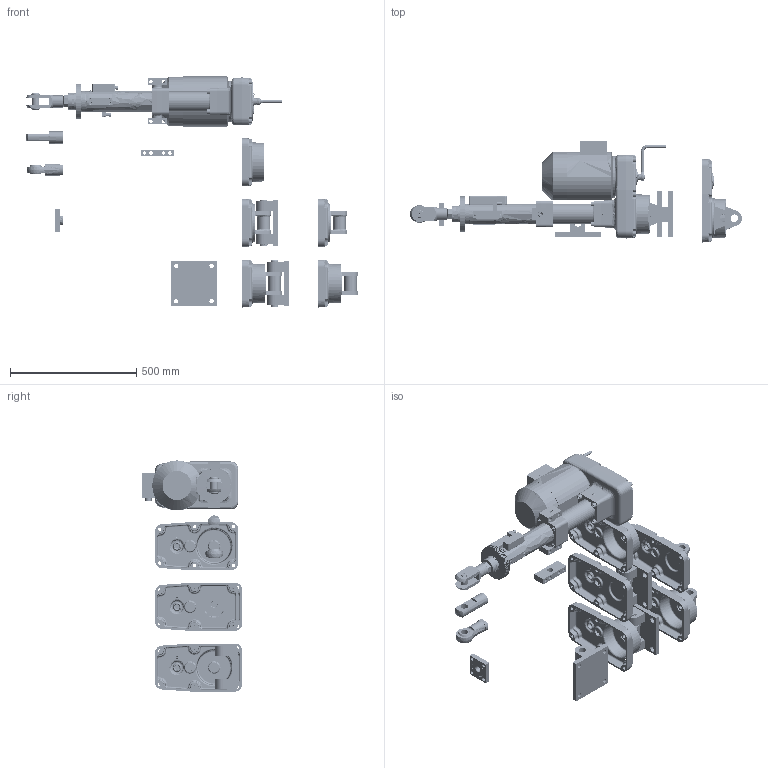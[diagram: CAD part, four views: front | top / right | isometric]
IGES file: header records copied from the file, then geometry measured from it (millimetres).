
Start section: SolidWorks IGES file using analytic representation for surfaces
Global section: file name: D:\ÂÍÓÊÎÂ ÂÑ\ÑÌ\Ñàéò\ÌÝÏ-Ñ3\Êîìïàñ 3D AutoCAD\Êîìïàñ 3D AutoCAD\ÌÝÏ Ñ3 300.IGS; native system: SolidWorks 2012; preprocessor: SolidWorks 2012; author: âíóêîâ; date: 141211.134607; units: millimetre
Bounding box: 1313 x 398.42 x 914 mm (x, y, z)
Surface area: 2934414.9 mm2 (no closed solid volume)
Topology: 0 solids, 0 shells, 4245 faces, 72026 edges, 71881 vertices
Faces by surface type: bspline 2194, revolution 2051
